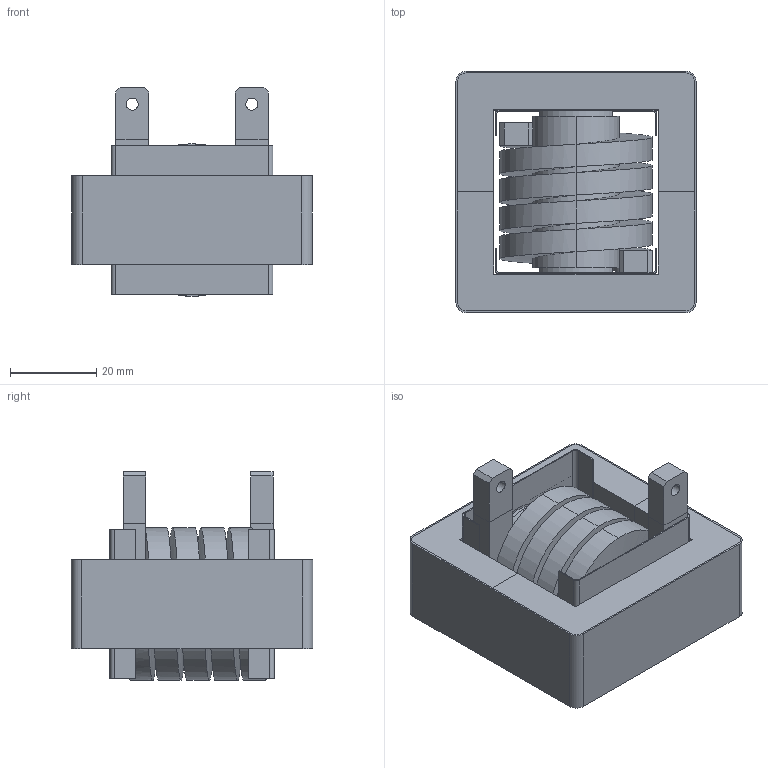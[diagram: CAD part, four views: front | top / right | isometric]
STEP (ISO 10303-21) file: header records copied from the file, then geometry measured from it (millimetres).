
FILE_DESCRIPTION (( 'STEP AP214' ), '1' );
FILE_NAME ('ES55202-2R5M-300AH.STEP', '2021-05-19T10:23:44', ( '' ), ( '' ), 'SwSTEP 2.0', 'SolidWorks 2015', '' );
FILE_SCHEMA (( 'AUTOMOTIVE_DESIGN' ));
Length unit declared in the file: millimetre
Products named in the file (6): WRAPPER; HELICAL COIL; E CORE; CENTER MYLAR; ES55202-2R5M-300AH; SIDE MYLAR
Assembly tree (7 placements, depth 2):
  ES55202-2R5M-300AH
    HELICAL COIL
    E CORE  x2
    SIDE MYLAR  x2
    CENTER MYLAR
    WRAPPER
Bounding box: 55.62 x 55.9 x 48.3 mm (x, y, z)
Volume: 63031 mm3; surface area: 44559 mm2
Topology: 9 solids, 9 shells, 296 faces, 772 edges, 512 vertices
Faces by surface type: plane 181, bspline 59, cylinder 56
Entity records: 14298 total; most frequent: CARTESIAN_POINT 6218, ORIENTED_EDGE 1376, DIRECTION 1012, EDGE_CURVE 688, LINE 480, VECTOR 480, VERTEX_POINT 456, EDGE_LOOP 290
